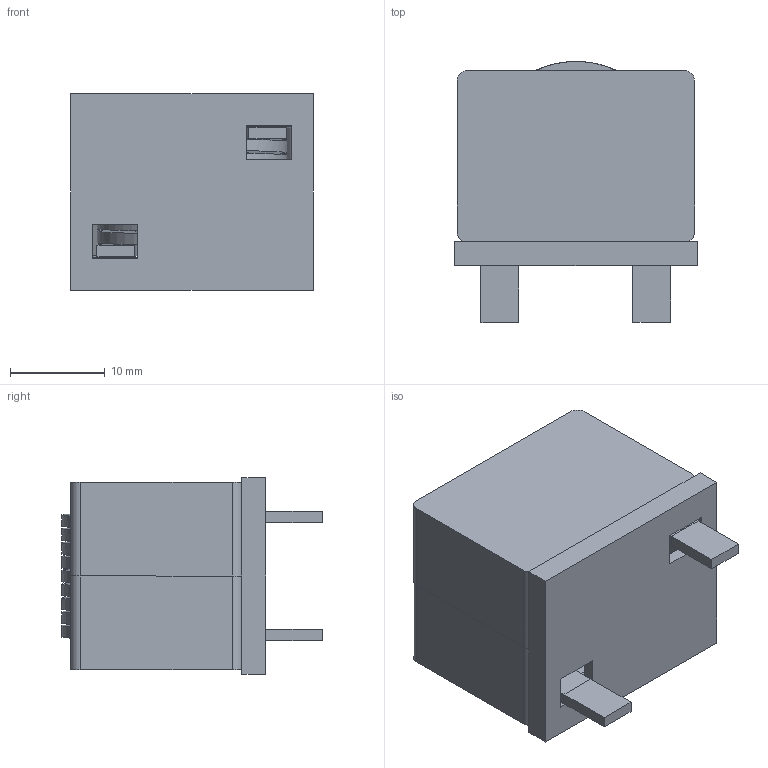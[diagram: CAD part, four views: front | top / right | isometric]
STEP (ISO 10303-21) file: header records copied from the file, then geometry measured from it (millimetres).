
FILE_DESCRIPTION (( 'STEP AP214' ), '1' );
FILE_NAME ('IHDM1008BCEB100MVA.STEP', '2018-12-06T16:49:24', ( '' ), ( '' ), 'SwSTEP 2.0', 'SolidWorks 2018', '' );
FILE_SCHEMA (( 'AUTOMOTIVE_DESIGN' ));
Length unit declared in the file: millimetre
Products named in the file (4): Coil 9 turn; RK2518; IHDM1008BCEB100MVA; header with locate fixture_No Draft or Fillet
Assembly tree (4 placements, depth 2):
  IHDM1008BCEB100MVA
    RK2518  x2
    Coil 9 turn
    header with locate fixture_No Draft or Fillet
Bounding box: 25.53 x 27.5 x 20.73 mm (x, y, z)
Volume: 8463.6 mm3; surface area: 10122.5 mm2
Topology: 4 solids, 4 shells, 123 faces, 298 edges, 180 vertices
Faces by surface type: plane 67, cylinder 32, torus 16, bspline 8
Entity records: 4786 total; most frequent: CARTESIAN_POINT 2371, DIRECTION 416, ORIENTED_EDGE 412, EDGE_CURVE 206, VECTOR 154, LINE 154, AXIS2_PLACEMENT_3D 131, VERTEX_POINT 126
